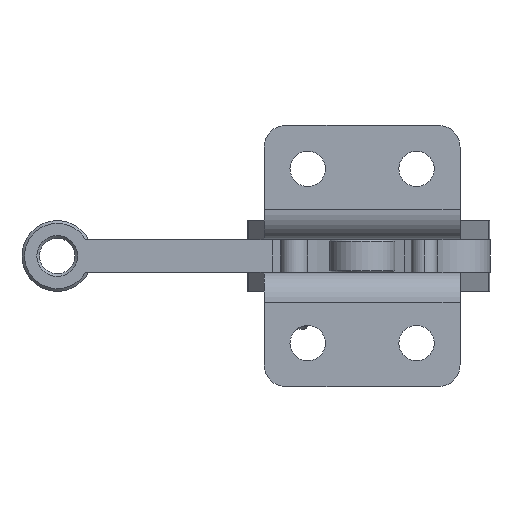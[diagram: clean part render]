
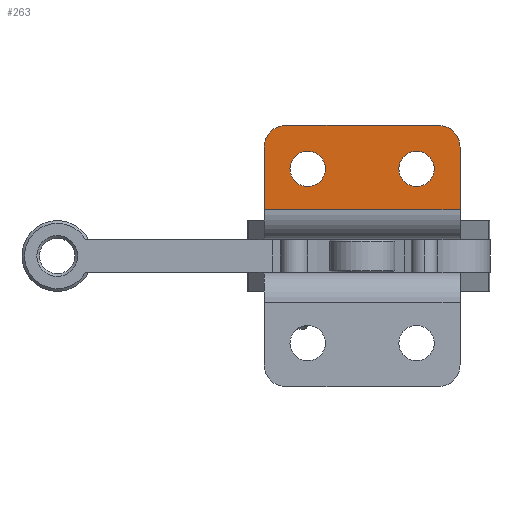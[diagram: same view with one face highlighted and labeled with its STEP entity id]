
A CAD part, front view. The second image highlights one B-rep face of the part: STEP entity #263.
In plain terms, the highlighted planar face has unit normal (0, -1, 0).
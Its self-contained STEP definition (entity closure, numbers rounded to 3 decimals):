
#263 = ADVANCED_FACE( '', ( #526, #527, #528 ), #529, .F. );
#526 = FACE_BOUND( '', #1076, .T. );
#527 = FACE_BOUND( '', #1077, .T. );
#528 = FACE_OUTER_BOUND( '', #1078, .T. );
#529 = PLANE( '', #1079 );
#1076 = EDGE_LOOP( '', ( #1782 ) );
#1077 = EDGE_LOOP( '', ( #1783 ) );
#1078 = EDGE_LOOP( '', ( #1784, #1785, #1786, #1787, #1788, #1789 ) );
#1079 = AXIS2_PLACEMENT_3D( '', #1790, #1791, #1792 );
#1782 = ORIENTED_EDGE( '', *, *, #3355, .T. );
#1783 = ORIENTED_EDGE( '', *, *, #3356, .T. );
#1784 = ORIENTED_EDGE( '', *, *, #3357, .F. );
#1785 = ORIENTED_EDGE( '', *, *, #3358, .F. );
#1786 = ORIENTED_EDGE( '', *, *, #3331, .F. );
#1787 = ORIENTED_EDGE( '', *, *, #3359, .F. );
#1788 = ORIENTED_EDGE( '', *, *, #3360, .T. );
#1789 = ORIENTED_EDGE( '', *, *, #3361, .F. );
#1790 = CARTESIAN_POINT( '', ( 3., 0., 24. ) );
#1791 = DIRECTION( '', ( 0., 1., 0. ) );
#1792 = DIRECTION( '', ( 0., 0., 1. ) );
#3331 = EDGE_CURVE( '', #3888, #3889, #3890, .T. );
#3355 = EDGE_CURVE( '', #3931, #3931, #3932, .T. );
#3356 = EDGE_CURVE( '', #3933, #3933, #3934, .T. );
#3357 = EDGE_CURVE( '', #3935, #3936, #3937, .T. );
#3358 = EDGE_CURVE( '', #3889, #3935, #3938, .T. );
#3359 = EDGE_CURVE( '', #3939, #3888, #3940, .T. );
#3360 = EDGE_CURVE( '', #3939, #3941, #3942, .T. );
#3361 = EDGE_CURVE( '', #3936, #3941, #3943, .T. );
#3888 = VERTEX_POINT( '', #4777 );
#3889 = VERTEX_POINT( '', #4778 );
#3890 = LINE( '', #4779, #4780 );
#3931 = VERTEX_POINT( '', #4840 );
#3932 = CIRCLE( '', #4841, 3.25 );
#3933 = VERTEX_POINT( '', #4842 );
#3934 = CIRCLE( '', #4843, 3.25 );
#3935 = VERTEX_POINT( '', #4844 );
#3936 = VERTEX_POINT( '', #4845 );
#3937 = LINE( '', #4846, #4847 );
#3938 = CIRCLE( '', #4848, 4. );
#3939 = VERTEX_POINT( '', #4849 );
#3940 = CIRCLE( '', #4850, 4. );
#3941 = VERTEX_POINT( '', #4851 );
#3942 = LINE( '', #4852, #4853 );
#3943 = LINE( '', #4854, #4855 );
#4777 = CARTESIAN_POINT( '', ( 7., 0., 24. ) );
#4778 = CARTESIAN_POINT( '', ( 35., 0., 24. ) );
#4779 = CARTESIAN_POINT( '', ( 3., 0., 24. ) );
#4780 = VECTOR( '', #6573, 1000. );
#4840 = CARTESIAN_POINT( '', ( 34.25, 0., 16. ) );
#4841 = AXIS2_PLACEMENT_3D( '', #6605, #6606, #6607 );
#4842 = CARTESIAN_POINT( '', ( 14.25, 0., 16. ) );
#4843 = AXIS2_PLACEMENT_3D( '', #6608, #6609, #6610 );
#4844 = CARTESIAN_POINT( '', ( 39., 0., 20. ) );
#4845 = CARTESIAN_POINT( '', ( 39., 0., 8.5 ) );
#4846 = CARTESIAN_POINT( '', ( 39., 0., 24. ) );
#4847 = VECTOR( '', #6611, 1000. );
#4848 = AXIS2_PLACEMENT_3D( '', #6612, #6613, #6614 );
#4849 = CARTESIAN_POINT( '', ( 3., 0., 20. ) );
#4850 = AXIS2_PLACEMENT_3D( '', #6615, #6616, #6617 );
#4851 = CARTESIAN_POINT( '', ( 3., 0., 8.5 ) );
#4852 = CARTESIAN_POINT( '', ( 3., 0., 24. ) );
#4853 = VECTOR( '', #6618, 1000. );
#4854 = CARTESIAN_POINT( '', ( 100., 0., 8.5 ) );
#4855 = VECTOR( '', #6619, 1000. );
#6573 = DIRECTION( '', ( 1., 0., 0. ) );
#6605 = CARTESIAN_POINT( '', ( 31., 0., 16. ) );
#6606 = DIRECTION( '', ( 0., 1., 0. ) );
#6607 = DIRECTION( '', ( 1., 0., 0. ) );
#6608 = CARTESIAN_POINT( '', ( 11., 0., 16. ) );
#6609 = DIRECTION( '', ( 0., 1., 0. ) );
#6610 = DIRECTION( '', ( 1., 0., 0. ) );
#6611 = DIRECTION( '', ( 0., 0., -1. ) );
#6612 = CARTESIAN_POINT( '', ( 35., 0., 20. ) );
#6613 = DIRECTION( '', ( 0., 1., 0. ) );
#6614 = DIRECTION( '', ( 1., 0., 0. ) );
#6615 = CARTESIAN_POINT( '', ( 7., 0., 20. ) );
#6616 = DIRECTION( '', ( 0., 1., 0. ) );
#6617 = DIRECTION( '', ( 1., 0., 0. ) );
#6618 = DIRECTION( '', ( 0., 0., -1. ) );
#6619 = DIRECTION( '', ( -1., 0., 0. ) );
